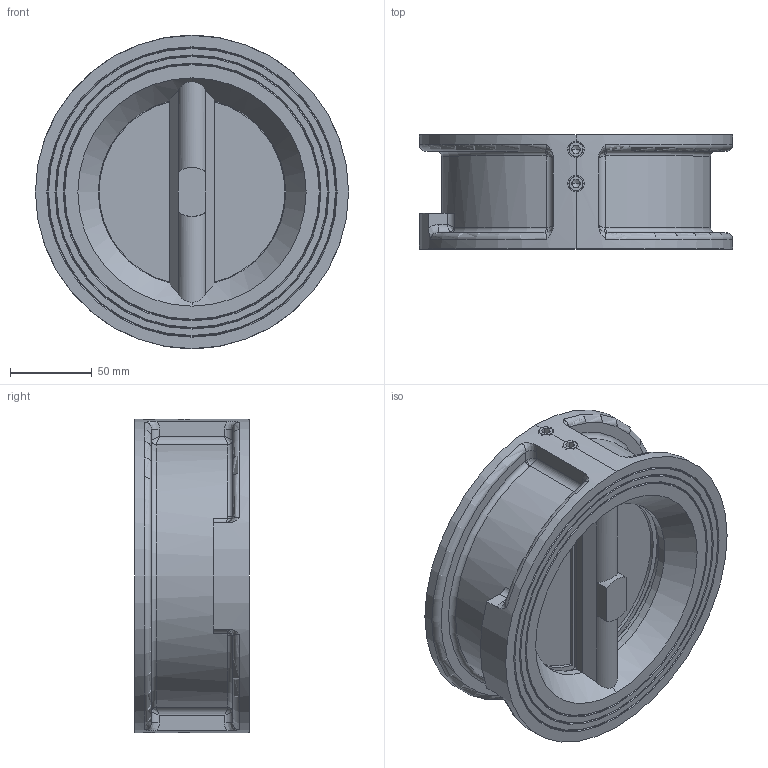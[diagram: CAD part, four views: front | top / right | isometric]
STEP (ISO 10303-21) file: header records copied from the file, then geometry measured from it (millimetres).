
FILE_DESCRIPTION (( 'STEP AP203' ), '1' );
FILE_NAME ('5306 DN125 ×°Åä.STEP', '2025-02-13T03:10:01', ( '' ), ( '' ), 'SwSTEP 2.0', 'SolidWorks 2018', '' );
FILE_SCHEMA (( 'CONFIG_CONTROL_DESIGN' ));
Length unit declared in the file: millimetre
Products named in the file (6): 5306 DN125 概粣; 5306 DN125 概极; 5306 DN125 概啣; 5306 DN125 境蝶; 5306 DN125 蚾饜; GB╱T 77-2007[内六角平端紧定螺钉M10×10]_M10×10
Assembly tree (10 placements, depth 2):
  5306 DN125 蚾饜
    5306 DN125 概极
    5306 DN125 境蝶
    5306 DN125 概啣  x2
    5306 DN125 概粣  x2
    GB╱T 77-2007[内六角平端紧定螺钉M10×10]_M10×10  x4
Bounding box: 192 x 70 x 192 mm (x, y, z)
Volume: 802200 mm3; surface area: 195339.6 mm2
Topology: 10 solids, 10 shells, 385 faces, 955 edges, 584 vertices
Faces by surface type: plane 144, cylinder 135, cone 66, bspline 30, torus 10
Entity records: 10718 total; most frequent: CARTESIAN_POINT 3767, ORIENTED_EDGE 1314, DIRECTION 1294, EDGE_CURVE 657, AXIS2_PLACEMENT_3D 505, VERTEX_POINT 408, EDGE_LOOP 295, LINE 284
